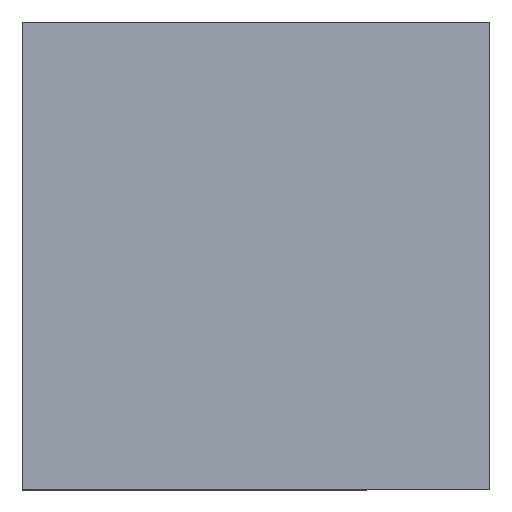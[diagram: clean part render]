
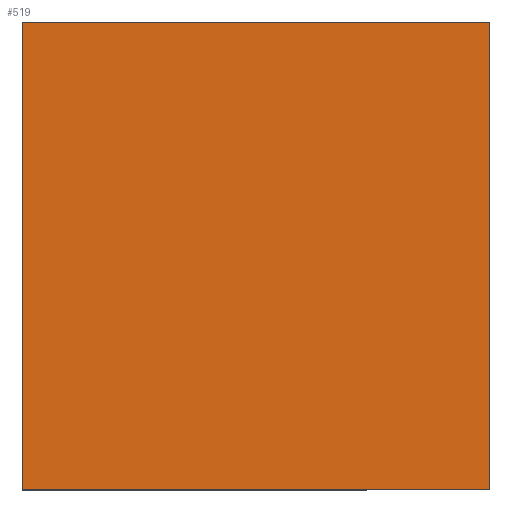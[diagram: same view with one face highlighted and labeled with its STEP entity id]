
A CAD part, top view. The second image highlights one B-rep face of the part: STEP entity #519.
In plain terms, the highlighted planar face has unit normal (0, 0, 1).
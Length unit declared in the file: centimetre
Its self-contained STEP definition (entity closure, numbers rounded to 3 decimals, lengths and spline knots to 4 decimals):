
#19 = ORIENTED_EDGE ( 'NONE', *, *, #143, .T. ) ;
#21 = VERTEX_POINT ( 'NONE', #328 ) ;
#37 = EDGE_LOOP ( 'NONE', ( #413, #367, #19, #47 ) ) ;
#39 = DIRECTION ( 'NONE',  ( 0., -1., 0. ) ) ;
#47 = ORIENTED_EDGE ( 'NONE', *, *, #654, .T. ) ;
#143 = EDGE_CURVE ( 'NONE', #21, #594, #696, .T. ) ;
#181 = AXIS2_PLACEMENT_3D ( 'NONE', #291, #295, #355 ) ;
#193 = VECTOR ( 'NONE', #39, 100. ) ;
#224 = CARTESIAN_POINT ( 'NONE',  ( 1000., 1000., 1000. ) ) ;
#252 = DIRECTION ( 'NONE',  ( -1., 0., 0. ) ) ;
#270 = VERTEX_POINT ( 'NONE', #553 ) ;
#278 = VECTOR ( 'NONE', #458, 100. ) ;
#287 = CARTESIAN_POINT ( 'NONE',  ( 0., 0., 1000. ) ) ;
#291 = CARTESIAN_POINT ( 'NONE',  ( 0., 0., 1000. ) ) ;
#295 = DIRECTION ( 'NONE',  ( 0., 0., 1. ) ) ;
#301 = EDGE_CURVE ( 'NONE', #504, #270, #562, .T. ) ;
#328 = CARTESIAN_POINT ( 'NONE',  ( 1000., 0., 1000. ) ) ;
#355 = DIRECTION ( 'NONE',  ( 1., 0., 0. ) ) ;
#366 = CARTESIAN_POINT ( 'NONE',  ( 0., 1000., 1000. ) ) ;
#367 = ORIENTED_EDGE ( 'NONE', *, *, #531, .T. ) ;
#369 = LINE ( 'NONE', #366, #408 ) ;
#408 = VECTOR ( 'NONE', #252, 100. ) ;
#409 = LINE ( 'NONE', #287, #278 ) ;
#413 = ORIENTED_EDGE ( 'NONE', *, *, #301, .T. ) ;
#436 = CARTESIAN_POINT ( 'NONE',  ( 0., 1000., 1000. ) ) ;
#457 = VECTOR ( 'NONE', #528, 100. ) ;
#458 = DIRECTION ( 'NONE',  ( 1., 0., 0. ) ) ;
#504 = VERTEX_POINT ( 'NONE', #747 ) ;
#519 = ADVANCED_FACE ( 'NONE', ( #596 ), #521, .T. ) ;
#521 = PLANE ( 'NONE',  #181 ) ;
#528 = DIRECTION ( 'NONE',  ( 0., 1., 0. ) ) ;
#531 = EDGE_CURVE ( 'NONE', #270, #21, #409, .T. ) ;
#553 = CARTESIAN_POINT ( 'NONE',  ( 0., 0., 1000. ) ) ;
#562 = LINE ( 'NONE', #436, #193 ) ;
#594 = VERTEX_POINT ( 'NONE', #604 ) ;
#596 = FACE_OUTER_BOUND ( 'NONE', #37, .T. ) ;
#604 = CARTESIAN_POINT ( 'NONE',  ( 1000., 1000., 1000. ) ) ;
#654 = EDGE_CURVE ( 'NONE', #594, #504, #369, .T. ) ;
#696 = LINE ( 'NONE', #224, #457 ) ;
#747 = CARTESIAN_POINT ( 'NONE',  ( 0., 1000., 1000. ) ) ;
